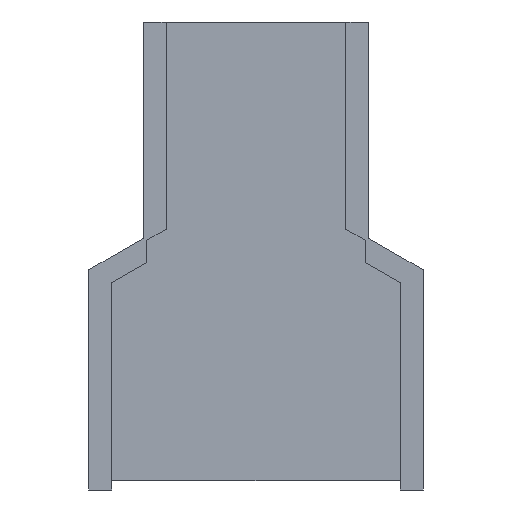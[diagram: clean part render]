
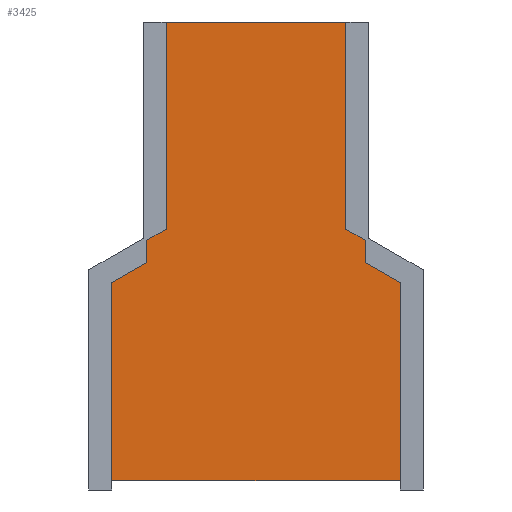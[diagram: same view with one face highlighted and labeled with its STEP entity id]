
A CAD part, front view. The second image highlights one B-rep face of the part: STEP entity #3425.
In plain terms, the highlighted planar face has unit normal (0, -1, 0).
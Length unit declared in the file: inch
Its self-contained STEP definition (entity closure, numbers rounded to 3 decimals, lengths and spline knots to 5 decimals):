
#3274=DIRECTION('',(0.,0.,-1.));
#3275=VECTOR('',#3274,5.9375);
#3276=CARTESIAN_POINT('',(2.9375,0.,0.));
#3277=LINE('',#3276,#3275);
#3278=DIRECTION('',(0.866,0.,-0.5));
#3279=VECTOR('',#3278,1.73205);
#3280=CARTESIAN_POINT('',(2.9375,0.,-5.9375));
#3281=LINE('',#3280,#3279);
#3282=DIRECTION('',(0.,0.,-1.));
#3283=VECTOR('',#3282,5.8125);
#3284=CARTESIAN_POINT('',(4.4375,0.,-6.80353));
#3285=LINE('',#3284,#3283);
#3286=DIRECTION('',(-1.,0.,0.));
#3287=VECTOR('',#3286,8.875);
#3288=CARTESIAN_POINT('',(4.4375,0.,-12.61603));
#3289=LINE('',#3288,#3287);
#3290=DIRECTION('',(0.,0.,1.));
#3291=VECTOR('',#3290,5.8125);
#3292=CARTESIAN_POINT('',(-4.4375,0.,-12.61603));
#3293=LINE('',#3292,#3291);
#3294=DIRECTION('',(0.866,0.,0.5));
#3295=VECTOR('',#3294,1.73205);
#3296=CARTESIAN_POINT('',(-4.4375,0.,-6.80353));
#3297=LINE('',#3296,#3295);
#3298=DIRECTION('',(0.,0.,1.));
#3299=VECTOR('',#3298,5.9375);
#3300=CARTESIAN_POINT('',(-2.9375,0.,-5.9375));
#3301=LINE('',#3300,#3299);
#3302=DIRECTION('',(1.,0.,0.));
#3303=VECTOR('',#3302,5.875);
#3304=CARTESIAN_POINT('',(-2.9375,0.,0.));
#3305=LINE('',#3304,#3303);
#3370=CARTESIAN_POINT('',(-4.4375,0.,-6.80353));
#3371=CARTESIAN_POINT('',(-2.9375,0.,-5.9375));
#3372=VERTEX_POINT('',#3370);
#3373=VERTEX_POINT('',#3371);
#3374=CARTESIAN_POINT('',(-2.9375,0.,0.));
#3375=VERTEX_POINT('',#3374);
#3376=CARTESIAN_POINT('',(2.9375,0.,0.));
#3377=VERTEX_POINT('',#3376);
#3386=CARTESIAN_POINT('',(2.9375,0.,-5.9375));
#3387=VERTEX_POINT('',#3386);
#3388=CARTESIAN_POINT('',(4.4375,0.,-6.80353));
#3389=VERTEX_POINT('',#3388);
#3390=CARTESIAN_POINT('',(4.4375,0.,-12.61603));
#3391=VERTEX_POINT('',#3390);
#3392=CARTESIAN_POINT('',(-4.4375,0.,-12.61603));
#3393=VERTEX_POINT('',#3392);
#3402=CARTESIAN_POINT('',(0.,0.,0.));
#3403=DIRECTION('',(0.,1.,0.));
#3404=DIRECTION('',(1.,0.,0.));
#3405=AXIS2_PLACEMENT_3D('',#3402,#3403,#3404);
#3406=PLANE('',#3405);
#3408=ORIENTED_EDGE('',*,*,#3407,.T.);
#3410=ORIENTED_EDGE('',*,*,#3409,.T.);
#3412=ORIENTED_EDGE('',*,*,#3411,.T.);
#3414=ORIENTED_EDGE('',*,*,#3413,.T.);
#3416=ORIENTED_EDGE('',*,*,#3415,.T.);
#3418=ORIENTED_EDGE('',*,*,#3417,.T.);
#3420=ORIENTED_EDGE('',*,*,#3419,.T.);
#3422=ORIENTED_EDGE('',*,*,#3421,.T.);
#3423=EDGE_LOOP('',(#3408,#3410,#3412,#3414,#3416,#3418,#3420,#3422));
#3424=FACE_OUTER_BOUND('',#3423,.F.);
#3425=ADVANCED_FACE('',(#3424),#3406,.F.);
#3407=EDGE_CURVE('',#3377,#3387,#3277,.T.);
#3409=EDGE_CURVE('',#3387,#3389,#3281,.T.);
#3411=EDGE_CURVE('',#3389,#3391,#3285,.T.);
#3413=EDGE_CURVE('',#3391,#3393,#3289,.T.);
#3415=EDGE_CURVE('',#3393,#3372,#3293,.T.);
#3417=EDGE_CURVE('',#3372,#3373,#3297,.T.);
#3419=EDGE_CURVE('',#3373,#3375,#3301,.T.);
#3421=EDGE_CURVE('',#3375,#3377,#3305,.T.);
